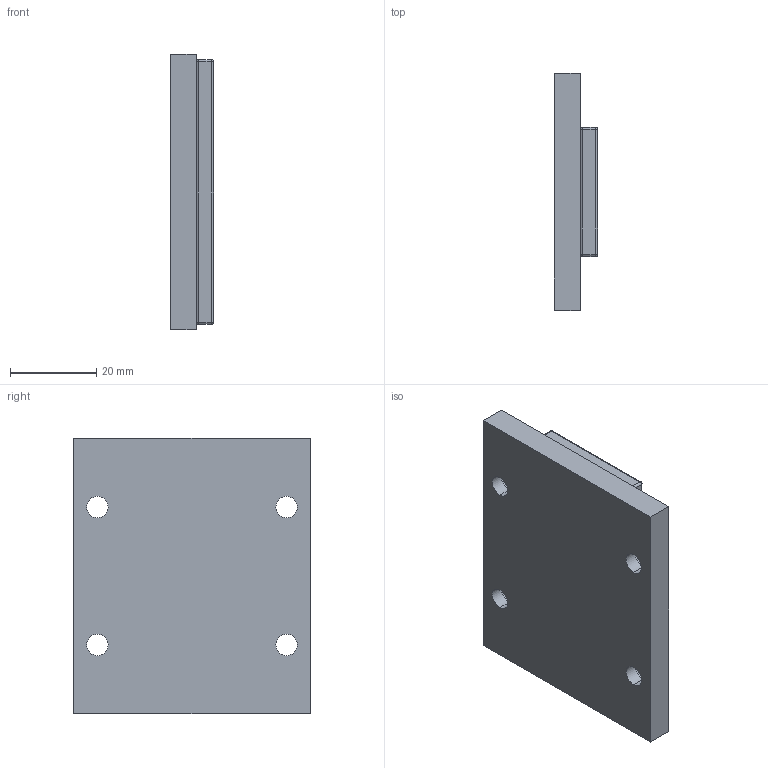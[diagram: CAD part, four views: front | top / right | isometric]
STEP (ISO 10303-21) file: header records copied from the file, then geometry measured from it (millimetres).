
FILE_DESCRIPTION (( 'STEP AP214' ), '1' );
FILE_NAME ('PIXM030-TL064-NC.STEP', '2020-07-30T01:49:56', ( '' ), ( '' ), 'SwSTEP 2.0', 'SolidWorks 2016', '' );
FILE_SCHEMA (( 'AUTOMOTIVE_DESIGN' ));
Length unit declared in the file: inch
Products named in the file (3): PIXM030-TL064-NC; 001SM030LXXX01_TL64; 001SM030000001-CUSTOMER_TL064
Assembly tree (2 placements, depth 2):
  PIXM030-TL064-NC
    001SM030LXXX01_TL64
    001SM030000001-CUSTOMER_TL064
Bounding box: 10 x 55 x 64 mm (x, y, z)
Volume: 27562.5 mm3; surface area: 13163.7 mm2
Topology: 2 solids, 2 shells, 63 faces, 146 edges, 84 vertices
Faces by surface type: cylinder 28, plane 27, bspline 8
Entity records: 2763 total; most frequent: CARTESIAN_POINT 410, DIRECTION 314, ORIENTED_EDGE 276, EDGE_CURVE 138, AXIS2_PLACEMENT_3D 116, VERTEX_POINT 84, LINE 82, VECTOR 82
